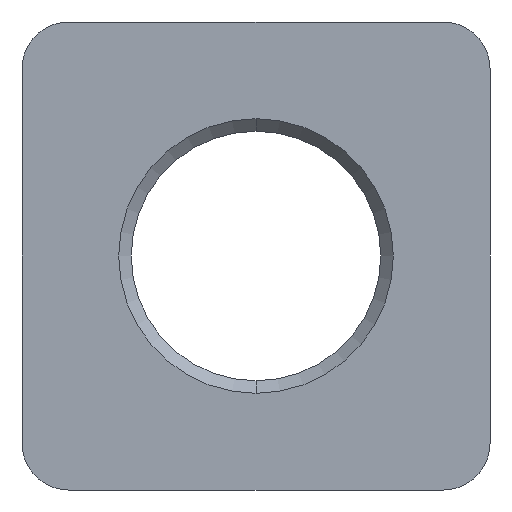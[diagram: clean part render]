
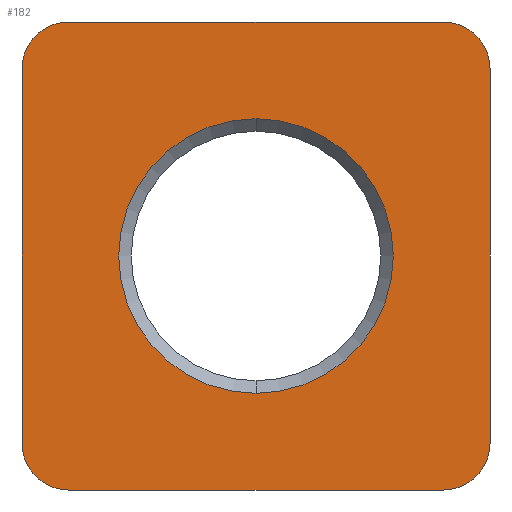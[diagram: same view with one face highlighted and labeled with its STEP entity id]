
A CAD part, front view. The second image highlights one B-rep face of the part: STEP entity #182.
In plain terms, the highlighted planar face has unit normal (0, -1, 0).
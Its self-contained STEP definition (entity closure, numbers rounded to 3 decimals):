
#112 = VERTEX_POINT ( 'NONE', #590 ) ;
#118 = EDGE_CURVE ( 'NONE', #229, #123, #578, .T. ) ;
#123 = VERTEX_POINT ( 'NONE', #630 ) ;
#133 = EDGE_CURVE ( 'NONE', #134, #229, #612, .T. ) ;
#134 = VERTEX_POINT ( 'NONE', #607 ) ;
#137 = VERTEX_POINT ( 'NONE', #666 ) ;
#143 = EDGE_CURVE ( 'NONE', #170, #137, #652, .T. ) ;
#147 = EDGE_CURVE ( 'NONE', #112, #170, #646, .T. ) ;
#152 = VERTEX_POINT ( 'NONE', #691 ) ;
#157 = EDGE_CURVE ( 'NONE', #137, #152, #686, .T. ) ;
#163 = EDGE_CURVE ( 'NONE', #123, #112, #681, .T. ) ;
#170 = VERTEX_POINT ( 'NONE', #724 ) ;
#181 = EDGE_CURVE ( 'NONE', #245, #134, #713, .T. ) ;
#182 = ADVANCED_FACE ( 'NONE', ( #709, #708 ), #707, .F. ) ;
#183 = EDGE_LOOP ( 'NONE', ( #184, #185 ) ) ;
#184 = ORIENTED_EDGE ( 'NONE', *, *, #273, .T. ) ;
#185 = ORIENTED_EDGE ( 'NONE', *, *, #246, .T. ) ;
#202 = ORIENTED_EDGE ( 'NONE', *, *, #118, .F. ) ;
#229 = VERTEX_POINT ( 'NONE', #812 ) ;
#242 = EDGE_CURVE ( 'NONE', #152, #245, #796, .T. ) ;
#245 = VERTEX_POINT ( 'NONE', #849 ) ;
#246 = EDGE_CURVE ( 'NONE', #271, #276, #848, .T. ) ;
#247 = EDGE_LOOP ( 'NONE', ( #248, #249, #250, #251, #252, #253, #254, #202 ) ) ;
#248 = ORIENTED_EDGE ( 'NONE', *, *, #133, .F. ) ;
#249 = ORIENTED_EDGE ( 'NONE', *, *, #181, .F. ) ;
#250 = ORIENTED_EDGE ( 'NONE', *, *, #242, .F. ) ;
#251 = ORIENTED_EDGE ( 'NONE', *, *, #157, .F. ) ;
#252 = ORIENTED_EDGE ( 'NONE', *, *, #143, .F. ) ;
#253 = ORIENTED_EDGE ( 'NONE', *, *, #147, .F. ) ;
#254 = ORIENTED_EDGE ( 'NONE', *, *, #163, .F. ) ;
#271 = VERTEX_POINT ( 'NONE', #875 ) ;
#273 = EDGE_CURVE ( 'NONE', #276, #271, #873, .T. ) ;
#276 = VERTEX_POINT ( 'NONE', #864 ) ;
#575 = DIRECTION ( 'NONE',  ( 0., 0., 1. ) ) ;
#576 = VECTOR ( 'NONE', #575, 1000. ) ;
#577 = CARTESIAN_POINT ( 'NONE',  ( -15., 0., 12. ) ) ;
#578 = LINE ( 'NONE', #577, #576 ) ;
#590 = CARTESIAN_POINT ( 'NONE',  ( -12., 0., 15. ) ) ;
#607 = CARTESIAN_POINT ( 'NONE',  ( -12., 0., -15. ) ) ;
#608 = DIRECTION ( 'NONE',  ( 0., 0., 1. ) ) ;
#609 = DIRECTION ( 'NONE',  ( 0., 1., 0. ) ) ;
#610 = CARTESIAN_POINT ( 'NONE',  ( -12., 0., -12. ) ) ;
#611 = AXIS2_PLACEMENT_3D ( 'NONE', #610, #609, #608 ) ;
#612 = CIRCLE ( 'NONE', #611, 3. ) ;
#630 = CARTESIAN_POINT ( 'NONE',  ( -15., 0., 12. ) ) ;
#643 = DIRECTION ( 'NONE',  ( 1., 0., 0. ) ) ;
#644 = VECTOR ( 'NONE', #643, 1000. ) ;
#645 = CARTESIAN_POINT ( 'NONE',  ( -12., 0., 15. ) ) ;
#646 = LINE ( 'NONE', #645, #644 ) ;
#648 = DIRECTION ( 'NONE',  ( 0., 0., 1. ) ) ;
#649 = DIRECTION ( 'NONE',  ( 0., 1., 0. ) ) ;
#650 = CARTESIAN_POINT ( 'NONE',  ( 12., 0., 12. ) ) ;
#651 = AXIS2_PLACEMENT_3D ( 'NONE', #650, #649, #648 ) ;
#652 = CIRCLE ( 'NONE', #651, 3. ) ;
#666 = CARTESIAN_POINT ( 'NONE',  ( 15., 0., 12. ) ) ;
#672 = DIRECTION ( 'NONE',  ( 0., 0., -1. ) ) ;
#673 = DIRECTION ( 'NONE',  ( 0., 1., 0. ) ) ;
#674 = CARTESIAN_POINT ( 'NONE',  ( -12., 0., 12. ) ) ;
#675 = AXIS2_PLACEMENT_3D ( 'NONE', #674, #673, #672 ) ;
#681 = CIRCLE ( 'NONE', #675, 3. ) ;
#683 = DIRECTION ( 'NONE',  ( 0., 0., -1. ) ) ;
#684 = VECTOR ( 'NONE', #683, 1000. ) ;
#685 = CARTESIAN_POINT ( 'NONE',  ( 15., 0., 12. ) ) ;
#686 = LINE ( 'NONE', #685, #684 ) ;
#691 = CARTESIAN_POINT ( 'NONE',  ( 15., 0., -12. ) ) ;
#703 = DIRECTION ( 'NONE',  ( 0., 0., 1. ) ) ;
#704 = DIRECTION ( 'NONE',  ( 0., 1., 0. ) ) ;
#705 = CARTESIAN_POINT ( 'NONE',  ( -12., 0., -12. ) ) ;
#706 = AXIS2_PLACEMENT_3D ( 'NONE', #705, #704, #703 ) ;
#707 = PLANE ( 'NONE',  #706 ) ;
#708 = FACE_OUTER_BOUND ( 'NONE', #247, .T. ) ;
#709 = FACE_BOUND ( 'NONE', #183, .T. ) ;
#710 = DIRECTION ( 'NONE',  ( -1., 0., 0. ) ) ;
#711 = VECTOR ( 'NONE', #710, 1000. ) ;
#712 = CARTESIAN_POINT ( 'NONE',  ( -12., 0., -15. ) ) ;
#713 = LINE ( 'NONE', #712, #711 ) ;
#724 = CARTESIAN_POINT ( 'NONE',  ( 12., 0., 15. ) ) ;
#793 = DIRECTION ( 'NONE',  ( 0., 1., 0. ) ) ;
#794 = CARTESIAN_POINT ( 'NONE',  ( 12., 0., -12. ) ) ;
#795 = AXIS2_PLACEMENT_3D ( 'NONE', #794, #793, #855 ) ;
#796 = CIRCLE ( 'NONE', #795, 3. ) ;
#812 = CARTESIAN_POINT ( 'NONE',  ( -15., 0., -12. ) ) ;
#844 = DIRECTION ( 'NONE',  ( 0., 0., 1. ) ) ;
#845 = DIRECTION ( 'NONE',  ( 0., 1., 0. ) ) ;
#846 = CARTESIAN_POINT ( 'NONE',  ( 0., 0., 0. ) ) ;
#847 = AXIS2_PLACEMENT_3D ( 'NONE', #846, #845, #844 ) ;
#848 = CIRCLE ( 'NONE', #847, 8.8 ) ;
#849 = CARTESIAN_POINT ( 'NONE',  ( 12., 0., -15. ) ) ;
#855 = DIRECTION ( 'NONE',  ( 0., 0., -1. ) ) ;
#864 = CARTESIAN_POINT ( 'NONE',  ( 0., 0., -8.8 ) ) ;
#869 = DIRECTION ( 'NONE',  ( 0., 0., 1. ) ) ;
#870 = DIRECTION ( 'NONE',  ( 0., 1., 0. ) ) ;
#871 = CARTESIAN_POINT ( 'NONE',  ( 0., 0., 0. ) ) ;
#872 = AXIS2_PLACEMENT_3D ( 'NONE', #871, #870, #869 ) ;
#873 = CIRCLE ( 'NONE', #872, 8.8 ) ;
#875 = CARTESIAN_POINT ( 'NONE',  ( 0., 0., 8.8 ) ) ;
